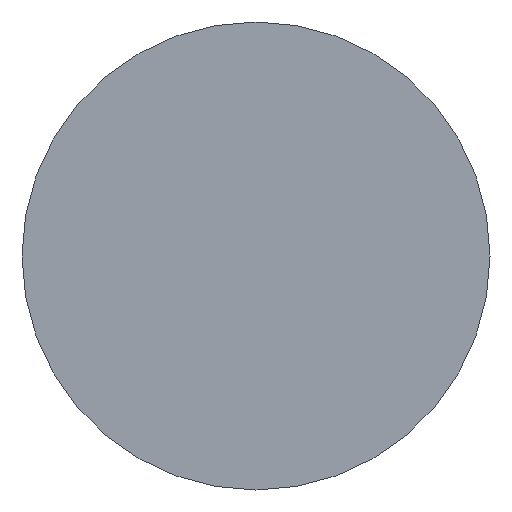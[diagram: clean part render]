
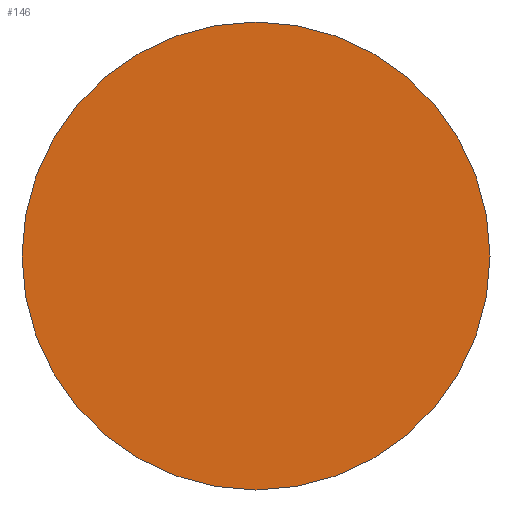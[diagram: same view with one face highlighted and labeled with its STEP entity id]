
A CAD part, left-side view. The second image highlights one B-rep face of the part: STEP entity #146.
In plain terms, the highlighted planar face has unit normal (-1, 0, 0).
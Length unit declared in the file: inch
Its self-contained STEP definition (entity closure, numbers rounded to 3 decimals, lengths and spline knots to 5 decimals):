
#72 = EDGE_CURVE ( 'NONE', #74, #143, #185, .T. ) ;
#74 = VERTEX_POINT ( 'NONE', #182 ) ;
#110 = CARTESIAN_POINT ( 'NONE',  ( 0., 0., 0. ) ) ;
#125 = ORIENTED_EDGE ( 'NONE', *, *, #135, .T. ) ;
#131 = ORIENTED_EDGE ( 'NONE', *, *, #72, .T. ) ;
#135 = EDGE_CURVE ( 'NONE', #143, #74, #244, .T. ) ;
#143 = VERTEX_POINT ( 'NONE', #232 ) ;
#146 = ADVANCED_FACE ( 'NONE', ( #231 ), #229, .F. ) ;
#147 = EDGE_LOOP ( 'NONE', ( #131, #125 ) ) ;
#163 = CARTESIAN_POINT ( 'NONE',  ( 0., 0., 0. ) ) ;
#164 = DIRECTION ( 'NONE',  ( 0., 1., 0. ) ) ;
#170 = DIRECTION ( 'NONE',  ( 1., 0., 0. ) ) ;
#171 = AXIS2_PLACEMENT_3D ( 'NONE', #163, #172, #181 ) ;
#172 = DIRECTION ( 'NONE',  ( -1., 0., 0. ) ) ;
#181 = DIRECTION ( 'NONE',  ( 0., -1., 0. ) ) ;
#182 = CARTESIAN_POINT ( 'NONE',  ( 0., -0.375, 0. ) ) ;
#185 = CIRCLE ( 'NONE', #171, 0.375 ) ;
#229 = PLANE ( 'NONE',  #230 ) ;
#230 = AXIS2_PLACEMENT_3D ( 'NONE', #110, #170, #164 ) ;
#231 = FACE_OUTER_BOUND ( 'NONE', #147, .T. ) ;
#232 = CARTESIAN_POINT ( 'NONE',  ( 0., 0.375, 0. ) ) ;
#240 = DIRECTION ( 'NONE',  ( 0., -1., 0. ) ) ;
#241 = DIRECTION ( 'NONE',  ( -1., 0., 0. ) ) ;
#242 = CARTESIAN_POINT ( 'NONE',  ( 0., 0., 0. ) ) ;
#243 = AXIS2_PLACEMENT_3D ( 'NONE', #242, #241, #240 ) ;
#244 = CIRCLE ( 'NONE', #243, 0.375 ) ;
